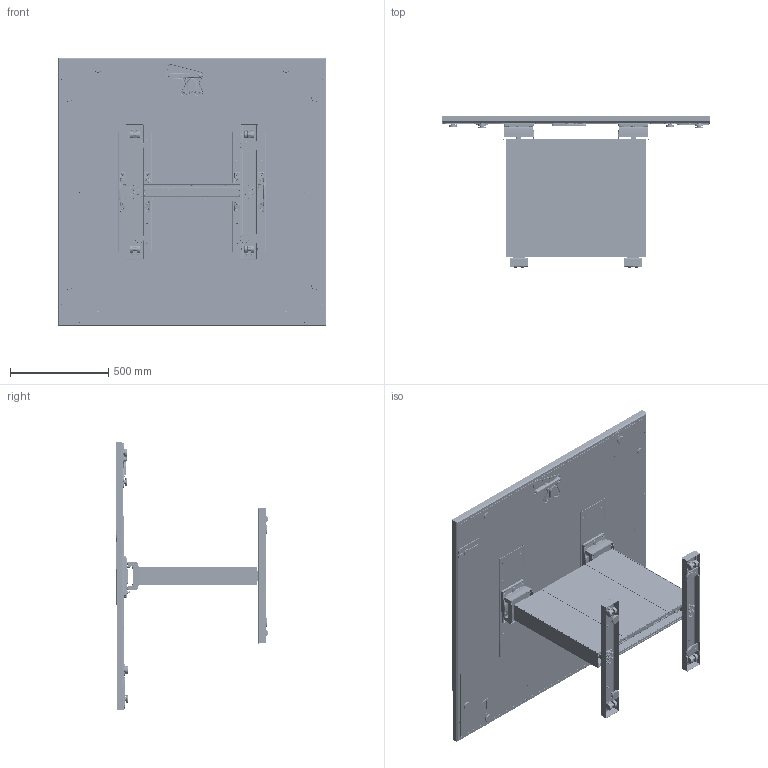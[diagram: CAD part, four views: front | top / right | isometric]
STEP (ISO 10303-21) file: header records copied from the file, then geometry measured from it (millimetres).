
FILE_DESCRIPTION(/* description */ (' - , , '),/* implementation_level */ '2;1');
FILE_NAME(/* name */ '54x54 Framed.stp',/* time_stamp */ '2024-08-21T13:41:52-04:00',/* author */ ('jbylsma'),/* organization */ (''),/* preprocessor_version */ 'ST-DEVELOPER v20',/* originating_system */ 'Autodesk Inventor 2024',/* authorisation */ '');
FILE_SCHEMA (('AUTOMOTIVE_DESIGN { 1 0 10303 214 3 1 1 }'));
Products named in the file (72): Assembly1; APT5454_NPTN_BASE; HW7991; HW8042; HW8042B; HW8042A; HW8042C; HW8042D; HW7984; HW7978; HW7976B; HW7978A; HW7997; HW8020; HW7998; HW8038; HW8041; HW8010; HW8009; AP9009; AP8009; HW8004; HW8026; HW8033; HW8023; HW8001; HW8006; HW8005; HW0747; 90935A149; HW0758; HW5424N; HW8016; HW8017; HW0267; HW8018; HW2291; HW8014; HW1846N; HW0141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
Assembly tree (331 placements, depth 5):
  Assembly1
    APT5454_NPTN_BASE
      HW7991
      HW8042  x2
        HW8042B
        HW8042A
        HW8042C
        HW8042D
      HW7984
      HW7978
        HW7976B  x2
        HW7978A
      HW7997  x2
      HW8020  x4
      HW7998  x4
      HW8038  x2
      HW8041  x2
      HW8010  x8
      HW8009  x8
      AP9009
      AP8009
      HW8004
      HW8026
      HW8033  x2
      HW8023
      HW8001  x4
      HW8006  x4
      HW8005  x4
      HW0747  x20
      90935A149  x13
      HW0758  x8
      HW5424N  x2
      HW8016  x6
      HW8017  x12
      HW0267  x12
      HW8018  x16
      HW2291  x4
      HW8014  x8
      HW1846N  x6
      HW0141  x4
      HW6825  x8
      HW1660N  x4
      HW0579N  x2
      HW3063N
      HW8058
      HW3793N  x2
      HW7505N  x2
    SU-0000326-16
      PA-0001148-16
        PA-0001149-16
        FM-0000232-48
        FM-0000232-16
      GL-0000036-16
      WA-0000069-16
        SF-0000100-06  x4
          EX-0000008
      HW8021N
        HW8021-C2  x2
        HW8021N-C2  x2
        HW8021-C3
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Bounding box: 1371.6 x 777.36 x 1371.71 mm (x, y, z)
Volume: 87988244.9 mm3; surface area: 20970525.5 mm2
Topology: 392 solids, 392 shells, 26721 faces, 67896 edges, 42159 vertices
Faces by surface type: cylinder 9557, plane 6995, bspline 5154, torus 2375, cone 1991, sphere 649
Full cylindrical faces by diameter (mm): 1.041 x4, 1.699 x14, 2.13 x130, 2.381 x40, 2.474 x64, 2.487 x10, 2.642 x8, 2.778 x10, 2.845 x12, 3.092 x72, 3.107 x140, 3.302 x12, 3.394 x156, 3.451 x104, 3.505 x152, 3.556 x2, 3.566 x4, 3.683 x18, 3.797 x1, 3.81 x8, 4.166 x94, 4.445 x10, 4.496 x21, 4.7 x80, 4.775 x2, 4.826 x411, 4.978 x8, 5 x4, 5.105 x46, 5.372 x4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
Entity records: 480258 total; most frequent: CARTESIAN_POINT 246149, ORIENTED_EDGE 49694, DIRECTION 46714, EDGE_CURVE 24847, AXIS2_PLACEMENT_3D 18555, VERTEX_POINT 14976, EDGE_LOOP 11185, FACE_OUTER_BOUND 10336
